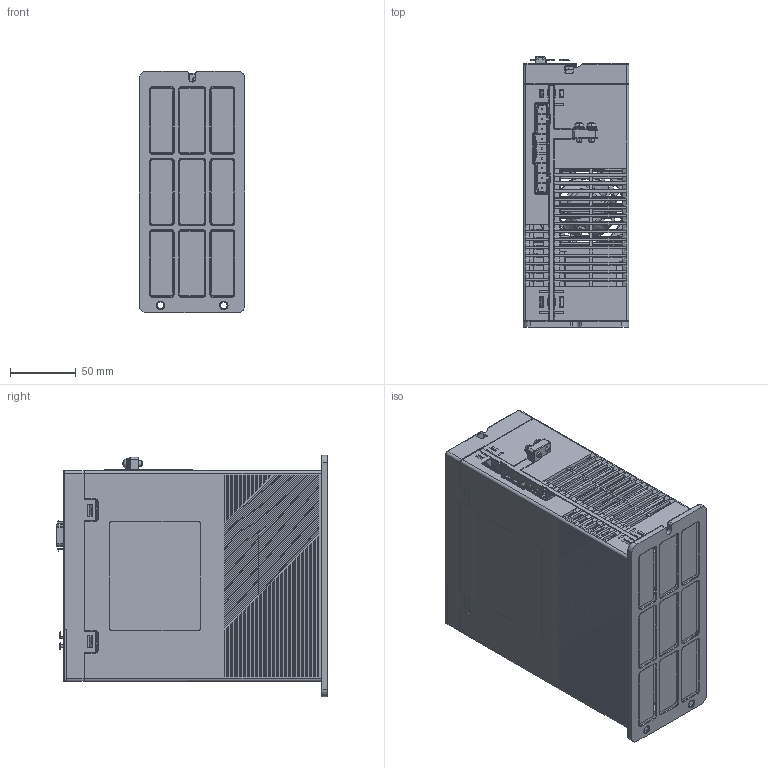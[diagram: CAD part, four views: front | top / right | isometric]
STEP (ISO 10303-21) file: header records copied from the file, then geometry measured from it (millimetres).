
FILE_DESCRIPTION((''),'2;1');
FILE_NAME('23CRN-04-00-SIDED_SW0002','2025-09-30T15:04:36',('wuyh130'),(''),'CREO PARAMETRIC BY PTC INC, 2021063','CREO PARAMETRIC BY PTC INC, 2021063','');
FILE_SCHEMA(('AUTOMOTIVE_DESIGN { 1 0 10303 214 1 1 1 1 }'));
Products named in the file (1): 23CRN-04-00-SIDED_SW0002
Bounding box: 80.12 x 205.24 x 183 mm (x, y, z)
Surface area: 402238.3 mm2 (no closed solid volume)
Topology: 0 solids, 382 shells, 2754 faces, 15549 edges, 12875 vertices
Faces by surface type: plane 1783, cylinder 611, bspline 173, cone 91, torus 48, extrusion 35, sphere 9, revolution 4
Entity records: 187283 total; most frequent: CARTESIAN_POINT 57208, DIRECTION 20730, ORIENTED_EDGE 19819, EDGE_CURVE 15541, VERTEX_POINT 12875, VECTOR 11447, LINE 11412, AXIS2_PLACEMENT_3D 4638
